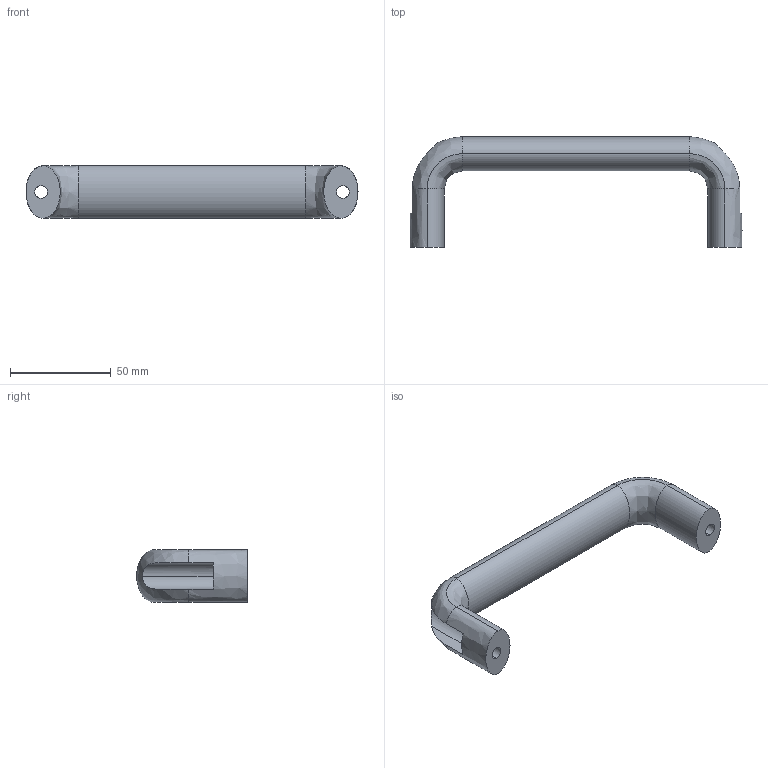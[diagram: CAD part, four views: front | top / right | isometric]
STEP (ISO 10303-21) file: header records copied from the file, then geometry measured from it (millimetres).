
FILE_DESCRIPTION (( 'STEP AP203' ), '1' );
FILE_NAME ('SK4-045-150.STEP', '2018-11-02T05:26:07', ( 'admin' ), ( 'Microsoft' ), 'SwSTEP 2.0', 'SolidWorks 2015', '' );
FILE_SCHEMA (( 'CONFIG_CONTROL_DESIGN' ));
Length unit declared in the file: millimetre
Products named in the file (1): SK4-045-150
Bounding box: 165 x 55 x 26 mm (x, y, z)
Volume: 67725.8 mm3; surface area: 18123.2 mm2
Topology: 1 solids, 1 shells, 31 faces, 73 edges, 46 vertices
Faces by surface type: cylinder 11, bspline 10, plane 10
Entity records: 1114 total; most frequent: CARTESIAN_POINT 384, ORIENTED_EDGE 146, DIRECTION 125, EDGE_CURVE 73, AXIS2_PLACEMENT_3D 49, VERTEX_POINT 46, EDGE_LOOP 37, FACE_OUTER_BOUND 31
